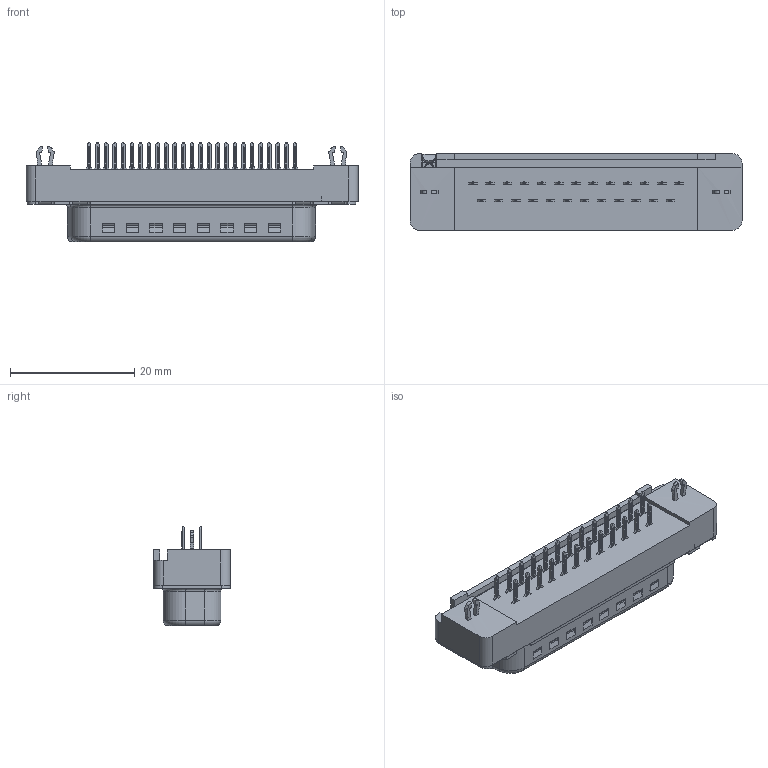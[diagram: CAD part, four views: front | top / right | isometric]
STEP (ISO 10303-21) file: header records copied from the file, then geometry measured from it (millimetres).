
FILE_DESCRIPTION(/* description */ (''),/* implementation_level */ '2;1');
FILE_NAME(/* name */ '100970690ugm000_a.stp',/* time_stamp */ '2021-08-12T05:47:03+02:00',/* author */ (''),/* organization */ (''),/* preprocessor_version */ 'ST-DEVELOPER v16.7',/* originating_system */ 'SIEMENS PLM Software NX 1911',/* authorisation */ '');
FILE_SCHEMA (('AUTOMOTIVE_DESIGN { 1 0 10303 214 3 1 1 1 }'));
Products named in the file (1): 100970690ugm000_a
Bounding box: 53.36 x 12.4 x 15.99 mm (x, y, z)
Volume: 3666.3 mm3; surface area: 4710.2 mm2
Topology: 1 solids, 26 shells, 2527 faces, 6679 edges, 4101 vertices
Faces by surface type: plane 984, cylinder 538, bspline 532, sphere 250, torus 120, cone 103
Full cylindrical faces by diameter (mm): 1.2 x4, 2.6 x2, 3.2 x2, 3.6 x2
Entity records: 107575 total; most frequent: CARTESIAN_POINT 33085, ORIENTED_EDGE 12580, DIRECTION 10478, EDGE_CURVE 6290, VERTEX_POINT 4041, AXIS2_PLACEMENT_3D 3901, EDGE_LOOP 2775, LINE 2676
